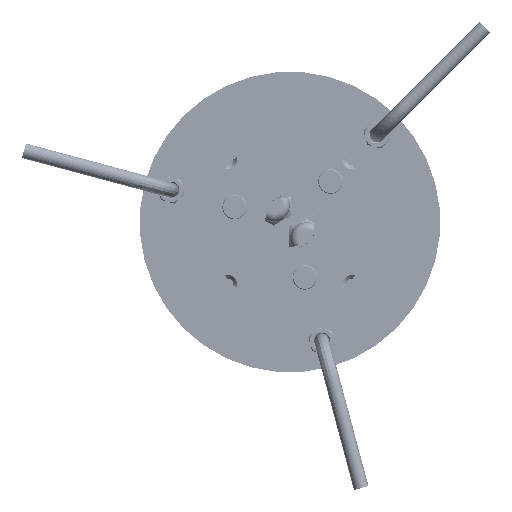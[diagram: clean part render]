
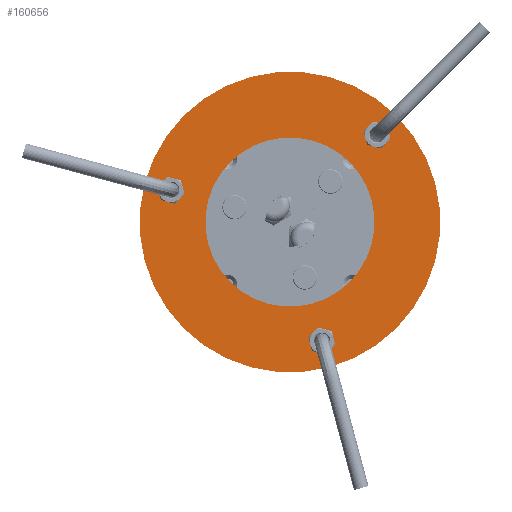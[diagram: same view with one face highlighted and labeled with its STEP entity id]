
A CAD part, front view. The second image highlights one B-rep face of the part: STEP entity #160656.
In plain terms, the highlighted planar face has unit normal (0, -1, 0) as drawn and (0, 0, 1) by its records, which use the part's own axes.
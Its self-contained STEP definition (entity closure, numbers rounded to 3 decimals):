
#160427=CARTESIAN_POINT('',(0.,0.,1.5));
#160428=DIRECTION('',(0.,0.,1.));
#160429=DIRECTION('',(1.,0.,0.));
#160430=AXIS2_PLACEMENT_3D('',#160427,#160428,#160429);
#160432=CARTESIAN_POINT('',(0.,0.,1.5));
#160433=DIRECTION('',(0.,0.,1.));
#160434=DIRECTION('',(-1.,0.,0.));
#160435=AXIS2_PLACEMENT_3D('',#160432,#160433,#160434);
#160437=CARTESIAN_POINT('',(0.,0.,1.5));
#160438=DIRECTION('',(0.,0.,-1.));
#160439=DIRECTION('',(1.,0.,0.));
#160440=AXIS2_PLACEMENT_3D('',#160437,#160438,#160439);
#160442=CARTESIAN_POINT('',(0.,0.,1.5));
#160443=DIRECTION('',(0.,0.,-1.));
#160444=DIRECTION('',(-1.,0.,0.));
#160445=AXIS2_PLACEMENT_3D('',#160442,#160443,#160444);
#160447=CARTESIAN_POINT('',(0.,-65.5,1.5));
#160448=DIRECTION('',(0.,0.,-1.));
#160449=DIRECTION('',(1.,0.,0.));
#160450=AXIS2_PLACEMENT_3D('',#160447,#160448,#160449);
#160452=CARTESIAN_POINT('',(0.,-65.5,1.5));
#160453=DIRECTION('',(0.,0.,-1.));
#160454=DIRECTION('',(-1.,0.,0.));
#160455=AXIS2_PLACEMENT_3D('',#160452,#160453,#160454);
#160457=CARTESIAN_POINT('',(-56.725,32.75,1.5));
#160458=DIRECTION('',(0.,0.,-1.));
#160459=DIRECTION('',(1.,0.,0.));
#160460=AXIS2_PLACEMENT_3D('',#160457,#160458,#160459);
#160462=CARTESIAN_POINT('',(-56.725,32.75,1.5));
#160463=DIRECTION('',(0.,0.,-1.));
#160464=DIRECTION('',(-1.,0.,0.));
#160465=AXIS2_PLACEMENT_3D('',#160462,#160463,#160464);
#160467=CARTESIAN_POINT('',(56.725,32.75,1.5));
#160468=DIRECTION('',(0.,0.,-1.));
#160469=DIRECTION('',(1.,0.,0.));
#160470=AXIS2_PLACEMENT_3D('',#160467,#160468,#160469);
#160472=CARTESIAN_POINT('',(56.725,32.75,1.5));
#160473=DIRECTION('',(0.,0.,-1.));
#160474=DIRECTION('',(-1.,0.,0.));
#160475=AXIS2_PLACEMENT_3D('',#160472,#160473,#160474);
#160505=CARTESIAN_POINT('',(-45.,0.,1.5));
#160506=CARTESIAN_POINT('',(45.,0.,1.5));
#160507=VERTEX_POINT('',#160505);
#160508=VERTEX_POINT('',#160506);
#160517=CARTESIAN_POINT('',(-61.225,32.75,1.5));
#160518=CARTESIAN_POINT('',(-52.225,32.75,1.5));
#160519=VERTEX_POINT('',#160517);
#160520=VERTEX_POINT('',#160518);
#160525=CARTESIAN_POINT('',(4.5,-65.5,1.5));
#160526=CARTESIAN_POINT('',(-4.5,-65.5,1.5));
#160527=VERTEX_POINT('',#160525);
#160528=VERTEX_POINT('',#160526);
#160533=CARTESIAN_POINT('',(61.225,32.75,1.5));
#160534=VERTEX_POINT('',#160533);
#160535=CARTESIAN_POINT('',(52.225,32.75,1.5));
#160536=VERTEX_POINT('',#160535);
#160541=CARTESIAN_POINT('',(80.,0.,1.5));
#160542=CARTESIAN_POINT('',(-80.,0.,1.5));
#160543=VERTEX_POINT('',#160541);
#160544=VERTEX_POINT('',#160542);
#160624=CARTESIAN_POINT('',(0.,0.,1.5));
#160625=DIRECTION('',(0.,0.,1.));
#160626=DIRECTION('',(1.,0.,0.));
#160627=AXIS2_PLACEMENT_3D('',#160624,#160625,#160626);
#160628=PLANE('',#160627);
#160629=ORIENTED_EDGE('',*,*,#160604,.F.);
#160630=ORIENTED_EDGE('',*,*,#160617,.F.);
#160631=EDGE_LOOP('',(#160629,#160630));
#160632=FACE_OUTER_BOUND('',#160631,.F.);
#160634=ORIENTED_EDGE('',*,*,#160633,.F.);
#160636=ORIENTED_EDGE('',*,*,#160635,.F.);
#160637=EDGE_LOOP('',(#160634,#160636));
#160638=FACE_BOUND('',#160637,.F.);
#160640=ORIENTED_EDGE('',*,*,#160639,.F.);
#160642=ORIENTED_EDGE('',*,*,#160641,.F.);
#160643=EDGE_LOOP('',(#160640,#160642));
#160644=FACE_BOUND('',#160643,.F.);
#160645=ORIENTED_EDGE('',*,*,#160554,.F.);
#160647=ORIENTED_EDGE('',*,*,#160646,.F.);
#160648=EDGE_LOOP('',(#160645,#160647));
#160649=FACE_BOUND('',#160648,.F.);
#160651=ORIENTED_EDGE('',*,*,#160650,.F.);
#160653=ORIENTED_EDGE('',*,*,#160652,.F.);
#160654=EDGE_LOOP('',(#160651,#160653));
#160655=FACE_BOUND('',#160654,.F.);
#160656=ADVANCED_FACE('',(#160632,#160638,#160644,#160649,#160655),#160628,.T.);
#160431=CIRCLE('',#160430,80.);
#160436=CIRCLE('',#160435,80.);
#160441=CIRCLE('',#160440,45.);
#160446=CIRCLE('',#160445,45.);
#160451=CIRCLE('',#160450,4.5);
#160456=CIRCLE('',#160455,4.5);
#160461=CIRCLE('',#160460,4.5);
#160466=CIRCLE('',#160465,4.5);
#160471=CIRCLE('',#160470,4.5);
#160476=CIRCLE('',#160475,4.5);
#160554=EDGE_CURVE('',#160520,#160519,#160461,.T.);
#160604=EDGE_CURVE('',#160543,#160544,#160431,.T.);
#160617=EDGE_CURVE('',#160544,#160543,#160436,.T.);
#160633=EDGE_CURVE('',#160508,#160507,#160441,.T.);
#160635=EDGE_CURVE('',#160507,#160508,#160446,.T.);
#160639=EDGE_CURVE('',#160527,#160528,#160451,.T.);
#160641=EDGE_CURVE('',#160528,#160527,#160456,.T.);
#160646=EDGE_CURVE('',#160519,#160520,#160466,.T.);
#160650=EDGE_CURVE('',#160534,#160536,#160471,.T.);
#160652=EDGE_CURVE('',#160536,#160534,#160476,.T.);
